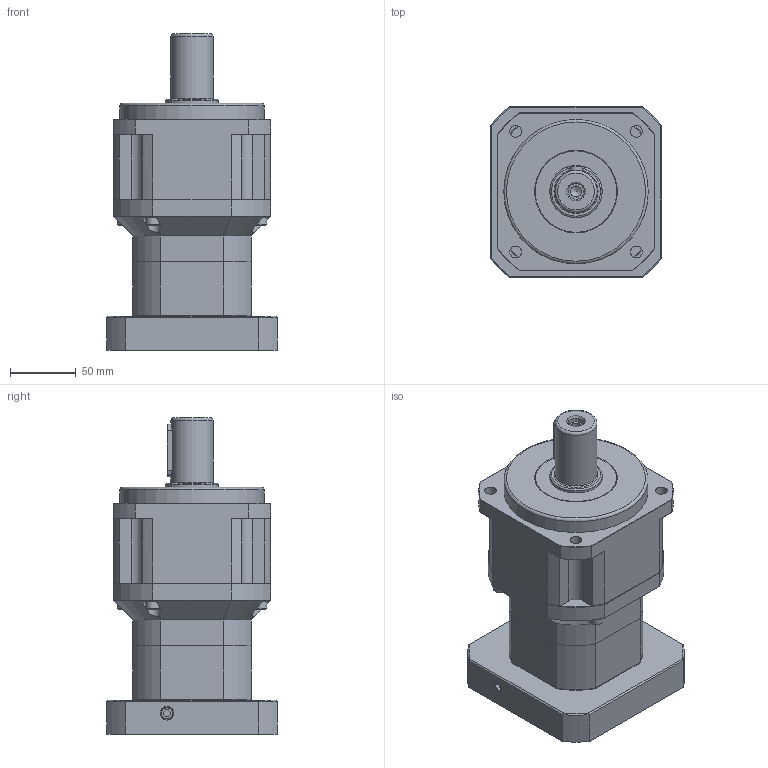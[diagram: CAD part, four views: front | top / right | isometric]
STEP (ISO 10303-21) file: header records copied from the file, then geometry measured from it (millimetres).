
FILE_DESCRIPTION((''),'2;1');
FILE_NAME('C:\Work\감속기 카다로그 도면\ATG Reducer(홈페이지)\KSB\추가수정\KSB-120-2 (S24).stp','2014-06-24T12:02:46',('young'),(''),'Autodesk Inventor 2012','Autodesk Inventor 2012','');
FILE_SCHEMA(('AUTOMOTIVE_DESIGN { 1 0 10303 214 1 1 1 1 }'));
Length unit declared in the file: millimetre
Products named in the file (1): KSB-120-2 (S24)
Bounding box: 130 x 130 x 241 mm (x, y, z)
Volume: 1756687.7 mm3; surface area: 246772.4 mm2
Topology: 21 solids, 21 shells, 666 faces, 1565 edges, 991 vertices
Faces by surface type: plane 371, cylinder 173, cone 88, torus 19, bspline 15
Full cylindrical faces by diameter (mm): 4.2 x4, 4.5 x4, 5 x8, 5.1 x1, 6 x9, 6.5 x5, 6.8 x8, 8 x4, 8.433 x2, 8.5 x1, 9 x4, 9.5 x2, 10 x9, 12 x1, 24.2 x1, 24.9 x1, 28.2 x1, 28.8 x1, 30 x1, 32 x1, 39 x1, 39.8 x1, 40 x1, 45 x2, 62 x2, 68 x1, 78 x2, 110 x2
Entity records: 19363 total; most frequent: CARTESIAN_POINT 4545, DIRECTION 3111, ORIENTED_EDGE 2744, EDGE_CURVE 1372, AXIS2_PLACEMENT_3D 1172, VERTEX_POINT 953, EDGE_LOOP 919, VECTOR 767
